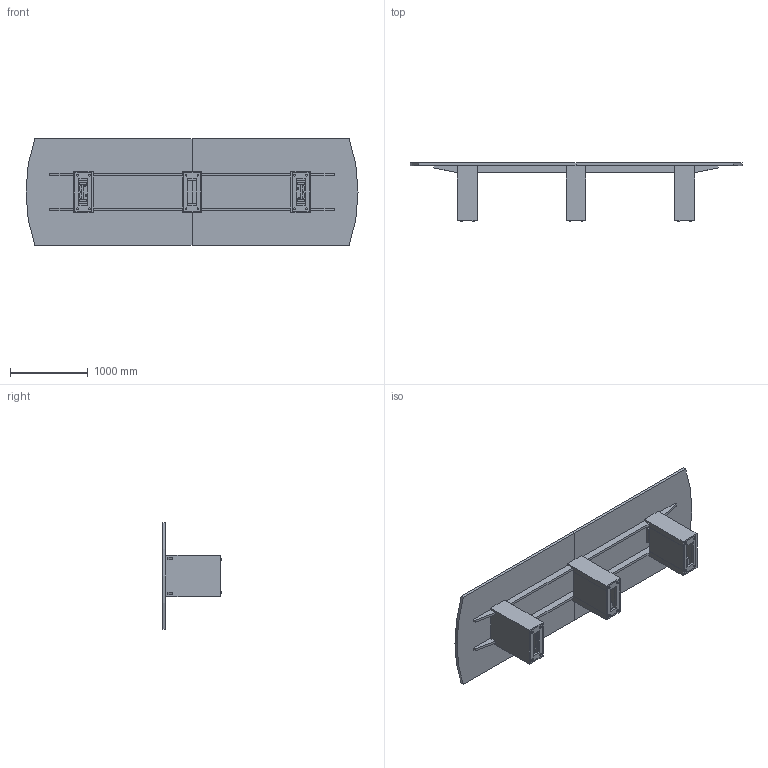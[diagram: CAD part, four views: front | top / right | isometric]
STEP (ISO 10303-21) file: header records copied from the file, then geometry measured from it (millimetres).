
FILE_DESCRIPTION(/* description */ ('','CAx-IF Rec.Pracs.---Representation and Presentation of Product Manufacturing Information (PMI)---4.0---2014-10-13'),/* implementation_level */ '2;1');
FILE_NAME(/* name */ 'TABLE_FOUNDATION 6.stp',/* time_stamp */ '2024-12-07T16:54:49-05:00',/* author */ ('mbowman'),/* organization */ (''),/* preprocessor_version */ 'ST-DEVELOPER v19.2',/* originating_system */ 'Autodesk Inventor 2023',/* authorisation */ '');
FILE_SCHEMA (('AP242_MANAGED_MODEL_BASED_3D_ENGINEERING_MIM_LF { 1 0 10303 442 1 1 4 }'));
Length unit declared in the file: inch
Products named in the file (40): FOUNDATION^TABLE 6_RADIUS ENDS-SOLID ASSEMBLY; FOUNDATION^TABLE 6_RADIUS ENDS-TOPS SOLID; _ASSEM_HINGE; _ASSEM_HINGE_1; FOUNDATION^TABLE 6_RADIUS ENDS-POWER LID; _ASSEM_HINGE_2; _ASSEM_HINGE_3; _SUPPORT; _TIGE_3; _ARM; _TIGE_2; _TIGE_1; FOUNDATION^TABLE 6_10X21 PAINTED END BASE-ASSEMBLY; FOUNDATION^TABLE 6_10X21 PAINTED END BASE-BOTTOM; FOUNDATION^TABLE 6_10X21 PAINTED END BASE-BACK; FOUNDATION^TABLE 6_10X21 PAINTED END BASE-LEFT SIDE; FOUNDATION^TABLE 6_10X21 PAINTED END BASE-RIGHT SIDE; FOUNDATION^TABLE 6_10X21 PAINTED END BASE-RIGHT WING; FOUNDATION^TABLE 6_10X21 PAINTED END BASE-LEFT WING; FOUNDATION^TABLE 6_10X21 PAINTED END BASE-ACCESS; FOUNDATION^TABLE 6_10X21 PAINTED END BASE-TOP; CCN^STANDARD_10X21 PAINTED CENTER BASE-ASSEMBLY; CCN^STANDARD_10X21 PAINTED CENTER BASE-BOTTOM; CCN^STANDARD_10X21 PAINTED CENTER BASE-BACK; CCN^STANDARD_10X21 PAINTED CENTER BASE-LEFT SIDE; CCN^STANDARD_10X21 PAINTED CENTER BASE-RIGHT SIDE; CCN^STANDARD_10X21 PAINTED CENTER BASE-RIGHT WING; CCN^STANDARD_10X21 PAINTED CENTER BASE-LEFT WING; CCN^STANDARD_10X21 PAINTED CENTER BASE-ACCESS; CCN^STANDARD_10X21 PAINTED CENTER BASE-TOP; H-713AA; BALAST BLOCK; BALLAST BLOCK BRACKET - (H-577W); CCN^STANDARD_10X21 BASE-Z CLIP RAIL (1.5 ALUM); Z-CLIP 25in THK - (HL-131); FOUNDATION^TABLE 6_RADIUS ENDS-KEEL; ECA INTERACT+ UT; ECA INTERACT+ UT_1; 8965-6403_8965-6408 no wires; 025-0043_025-0043
Assembly tree (115 placements, depth 4):
  FOUNDATION^TABLE 6_RADIUS ENDS-SOLID ASSEMBLY
    FOUNDATION^TABLE 6_RADIUS ENDS-TOPS SOLID
    FOUNDATION^TABLE 6_RADIUS ENDS-POWER LID  x2
    _ASSEM_HINGE
      _SUPPORT  x2
      _TIGE_3  x2
      _ARM  x4
      _TIGE_1  x2
      _TIGE_2
    _ASSEM_HINGE_1
      _SUPPORT  x2
      _TIGE_3  x2
      _ARM  x4
      _TIGE_1  x2
      _TIGE_2
    _ASSEM_HINGE_2
      _SUPPORT  x2
      _TIGE_3  x2
      _ARM  x4
      _TIGE_1  x2
      _TIGE_2
    _ASSEM_HINGE_3
      _SUPPORT  x2
      _TIGE_3  x2
      _ARM  x4
      _TIGE_1  x2
      _TIGE_2
    FOUNDATION^TABLE 6_10X21 PAINTED END BASE-ASSEMBLY  x2
      FOUNDATION^TABLE 6_10X21 PAINTED END BASE-BOTTOM
      FOUNDATION^TABLE 6_10X21 PAINTED END BASE-BACK
      FOUNDATION^TABLE 6_10X21 PAINTED END BASE-LEFT SIDE
      FOUNDATION^TABLE 6_10X21 PAINTED END BASE-RIGHT SIDE
      FOUNDATION^TABLE 6_10X21 PAINTED END BASE-RIGHT WING
      FOUNDATION^TABLE 6_10X21 PAINTED END BASE-LEFT WING
      FOUNDATION^TABLE 6_10X21 PAINTED END BASE-ACCESS
      FOUNDATION^TABLE 6_10X21 PAINTED END BASE-TOP
      H-713AA
      BALAST BLOCK
      BALLAST BLOCK BRACKET - (H-577W)
      CCN^STANDARD_10X21 BASE-Z CLIP RAIL (1.5 ALUM)
      Z-CLIP 25in THK - (HL-131)
    CCN^STANDARD_10X21 PAINTED CENTER BASE-ASSEMBLY
      CCN^STANDARD_10X21 PAINTED CENTER BASE-BOTTOM
      CCN^STANDARD_10X21 PAINTED CENTER BASE-BACK
      CCN^STANDARD_10X21 PAINTED CENTER BASE-LEFT SIDE
      CCN^STANDARD_10X21 PAINTED CENTER BASE-RIGHT SIDE
      CCN^STANDARD_10X21 PAINTED CENTER BASE-RIGHT WING
      CCN^STANDARD_10X21 PAINTED CENTER BASE-LEFT WING
      CCN^STANDARD_10X21 PAINTED CENTER BASE-ACCESS
      CCN^STANDARD_10X21 PAINTED CENTER BASE-TOP
      H-713AA  x4
      BALAST BLOCK  x2
      BALLAST BLOCK BRACKET - (H-577W)  x4
      CCN^STANDARD_10X21 BASE-Z CLIP RAIL (1.5 ALUM)  x2
      Z-CLIP 25in THK - (HL-131)  x4
    FOUNDATION^TABLE 6_RADIUS ENDS-KEEL  x4
    ECA INTERACT+ UT  x2
      ECA INTERACT+ UT_1
      8965-6403_8965-6408 no wires
        025-0043_025-0043
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Bounding box: 4267.2 x 749.3 x 1371.6 mm (x, y, z)
Volume: 346455516.4 mm3; surface area: 24473089.3 mm2
Topology: 150 solids, 150 shells, 5446 faces, 14622 edges, 9474 vertices
Faces by surface type: plane 3304, cylinder 1826, torus 176, cone 108, sphere 32
Full cylindrical faces by diameter (mm): 1 x84, 1.1 x8, 4.762 x36, 5.74 x12, 7.938 x12, 8 x8, 9.525 x2, 11.112 x12
Entity records: 34828 total; most frequent: CARTESIAN_POINT 8672, DIRECTION 5196, ORIENTED_EDGE 4476, EDGE_CURVE 2238, AXIS2_PLACEMENT_3D 1750, LINE 1696, VECTOR 1696, VERTEX_POINT 1459
